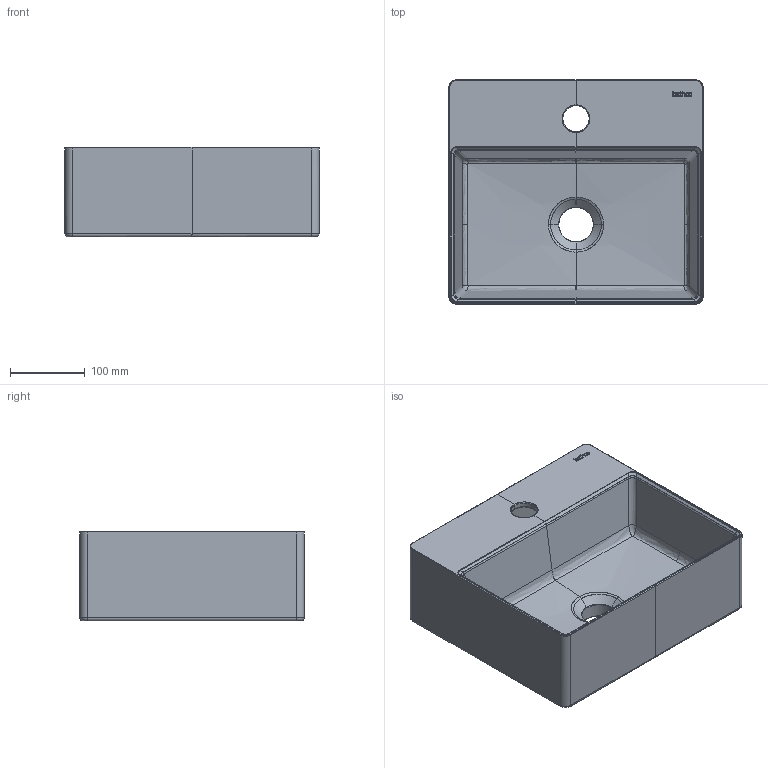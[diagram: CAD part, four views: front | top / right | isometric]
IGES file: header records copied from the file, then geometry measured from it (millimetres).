
Global section: file name: D:\Renovando Conceptos\Trabajos Varios\BathCo\47 Biblioteca Lavabos 3D\4913_New Bergamo\4913_NEW BERGAMO.igs; native system: Rhinoceros ( May  7 2021 ); preprocessor: Trout Lake IGES 012 May  7 2021; date: 221025.070230; units: millimetre
Bounding box: 340 x 300 x 120.2 mm (x, y, z)
Surface area: 515487.4 mm2 (no closed solid volume)
Topology: 0 solids, 0 shells, 250 faces, 1569 edges, 1556 vertices
Faces by surface type: bspline 250
